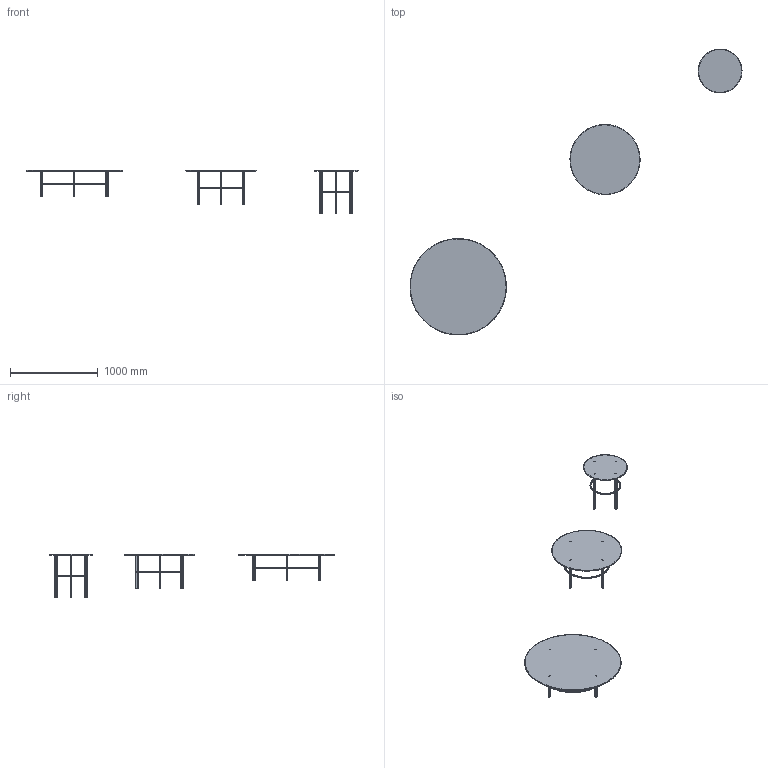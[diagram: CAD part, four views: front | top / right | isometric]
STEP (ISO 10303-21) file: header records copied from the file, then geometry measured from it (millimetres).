
FILE_DESCRIPTION(/* description */ (''),/* implementation_level */ '2;1');
FILE_NAME(/* name */ 'tavolini-Wanders',/* time_stamp */ '2023-03-15T18:31:30+01:00',/* author */ (''),/* organization */ (''),/* preprocessor_version */ 'ST-DEVELOPER v16.5',/* originating_system */ '',/* authorisation */ '');
FILE_SCHEMA (('AUTOMOTIVE_DESIGN'));
Products named in the file (1): Document
Bounding box: 3785.52 x 3260.34 x 496 mm (x, y, z)
Volume: 18073423.3 mm3; surface area: 3900659.9 mm2
Topology: 54 solids, 54 shells, 564 faces, 8033 edges, 7571 vertices
Faces by surface type: bspline 462, plane 102
Entity records: 87516 total; most frequent: CARTESIAN_POINT 72174, PRESENTATION_LAYER_ASSIGNMENT 7013, ORIENTED_EDGE 2148, B_SPLINE_CURVE_WITH_KNOTS 1928, EDGE_CURVE 1074, VERTEX_POINT 612, ADVANCED_FACE 564, FACE_OUTER_BOUND 564
